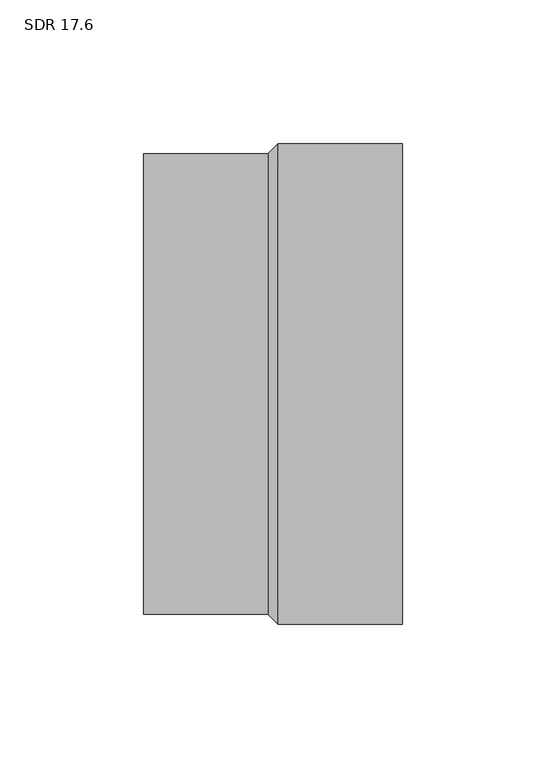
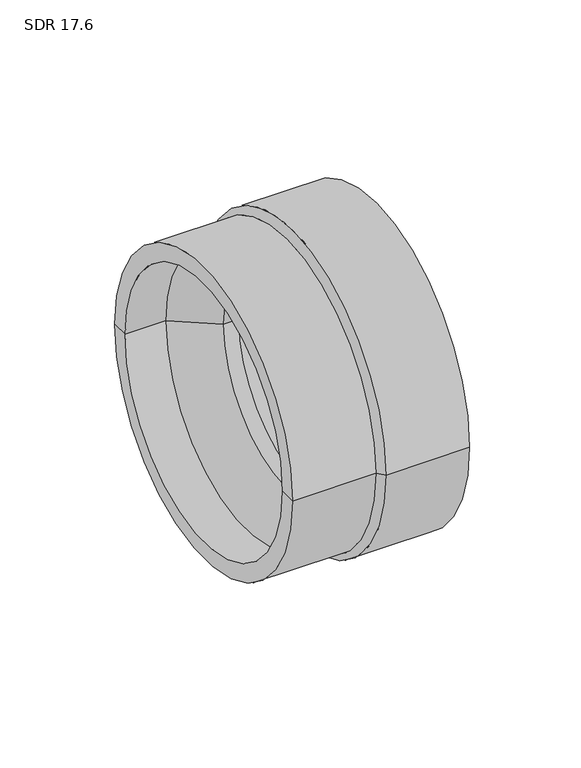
"""IFC4 building model written with IfcOpenShell, lengths in millimetres: pipe fitting geometry, Aquatherm - Reducing Coupling Butt Weld to Socket : SDR 17.6."""

from ifc_helpers import new_model, si_unit, frame, origin, place, context, project, spatial, polyline, circle_curve, source, transform, mapped, element, save
from ifc_brep_helpers import plane_surface, cylinder_surface, revolved_surface, advanced_brep


def sdr_17_6_117a52ce(model_context):
    return source(origin(), model_context, "Body", "AdvancedBrep", [
        advanced_brep(
        [(1.7145, -83.439, 0.0), (1.7145, 83.439, 0.0), (44.958, 83.439, 0.0), (44.958, -83.439, 0.0), (44.958, 62.484, 0.0), (44.958, -62.484, 0.0), (-23.749, -70.993, 0.0), (-23.749, 70.993, 0.0), (-44.958, 70.993, 0.0), (-44.958, -70.993, 0.0), (-44.958, 80.01, 0.0), (-44.958, -80.01, 0.0), (5.08, 62.484, 0.0), (5.08, -62.484, 0.0), (5.08, 55.499, 0.0), (5.08, -55.499, 0.0), (-2.54, 55.499, 0.0), (-2.54, -55.499, 0.0), (-1.7145, 80.01, 0.0), (-1.7145, -80.01, 0.0)],
        [
            (0, 1, circle_curve(frame((1.7145, 0.0, 0.0), z_axis=(1.0, 0.0, 0.0), x_axis=(0.0, 1.0, 0.0)), 83.439)),
            (1, 2),
            (2, 3, circle_curve(frame((44.958, 0.0, 0.0), z_axis=(-1.0, 0.0, 0.0), x_axis=(0.0, 1.0, 0.0)), 83.439)),
            (3, 0),
            (1, 0, circle_curve(frame((1.7145, 0.0, 0.0), z_axis=(1.0, 0.0, 0.0), x_axis=(0.0, 1.0, 0.0)), 83.439)),
            (3, 2, circle_curve(frame((44.958, 0.0, 0.0), z_axis=(-1.0, 0.0, 0.0), x_axis=(0.0, 1.0, 0.0)), 83.439)),
            (2, 4),
            (4, 5, circle_curve(frame((44.958, 0.0, 0.0), z_axis=(-1.0, 0.0, 0.0), x_axis=(0.0, 1.0, 0.0)), 62.484)),
            (5, 3),
            (5, 4, circle_curve(frame((44.958, 0.0, 0.0), z_axis=(-1.0, 0.0, 0.0), x_axis=(0.0, 1.0, 0.0)), 62.484)),
            (6, 7, circle_curve(frame((-23.749, 0.0, 0.0), z_axis=(1.0, 0.0, 0.0), x_axis=(0.0, 1.0, 0.0)), 70.993)),
            (7, 8),
            (8, 9, circle_curve(frame((-44.958, 0.0, 0.0), z_axis=(-1.0, 0.0, 0.0), x_axis=(0.0, 1.0, 0.0)), 70.993)),
            (9, 6),
            (7, 6, circle_curve(frame((-23.749, 0.0, 0.0), z_axis=(1.0, 0.0, 0.0), x_axis=(0.0, 1.0, 0.0)), 70.993)),
            (9, 8, circle_curve(frame((-44.958, 0.0, 0.0), z_axis=(-1.0, 0.0, 0.0), x_axis=(0.0, 1.0, 0.0)), 70.993)),
            (8, 10),
            (10, 11, circle_curve(frame((-44.958, 0.0, 0.0), z_axis=(-1.0, 0.0, 0.0), x_axis=(0.0, 1.0, 0.0)), 80.01)),
            (11, 9),
            (11, 10, circle_curve(frame((-44.958, 0.0, 0.0), z_axis=(-1.0, 0.0, 0.0), x_axis=(0.0, 1.0, 0.0)), 80.01)),
            (4, 12),
            (12, 13, circle_curve(frame((5.08, 0.0, 0.0), z_axis=(-1.0, 0.0, 0.0), x_axis=(0.0, 1.0, 0.0)), 62.484)),
            (13, 5),
            (13, 12, circle_curve(frame((5.08, 0.0, 0.0), z_axis=(-1.0, 0.0, 0.0), x_axis=(0.0, 1.0, 0.0)), 62.484)),
            (12, 14),
            (14, 15, circle_curve(frame((5.08, 0.0, 0.0), z_axis=(-1.0, 0.0, 0.0), x_axis=(0.0, 1.0, 0.0)), 55.499)),
            (15, 13),
            (15, 14, circle_curve(frame((5.08, 0.0, 0.0), z_axis=(-1.0, 0.0, 0.0), x_axis=(0.0, 1.0, 0.0)), 55.499)),
            (14, 16),
            (16, 17, circle_curve(frame((-2.54, 0.0, 0.0), z_axis=(-1.0, 0.0, 0.0), x_axis=(0.0, 1.0, 0.0)), 55.499)),
            (17, 15),
            (17, 16, circle_curve(frame((-2.54, 0.0, 0.0), z_axis=(-1.0, 0.0, 0.0), x_axis=(0.0, 1.0, 0.0)), 55.499)),
            (10, 18),
            (18, 19, circle_curve(frame((-1.7145, 0.0, 0.0), z_axis=(-1.0, 0.0, 0.0), x_axis=(0.0, 1.0, 0.0)), 80.01)),
            (19, 11),
            (19, 18, circle_curve(frame((-1.7145, 0.0, 0.0), z_axis=(-1.0, 0.0, 0.0), x_axis=(0.0, 1.0, 0.0)), 80.01)),
            (16, 7),
            (6, 17),
            (18, 1),
            (0, 19),
        ],
        [
            cylinder_surface(frame((-77.0252293, 0.0, 0.0), z_axis=(-1.0, 0.0, 0.0), x_axis=(0.0, 1.0, 0.0)), 83.439),
            plane_surface(frame((44.958, 0.0, 0.0), z_axis=(1.0, 0.0, 0.0), x_axis=(0.0, 1.0, 0.0))),
            revolved_surface(polyline([(-44.958, 70.993, 0.0), (-23.748999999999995, 70.993, 0.0)]), (-77.0252293, 0.0, 0.0), (-1.0, 0.0, 0.0)),
            plane_surface(frame((-44.958, 0.0, 0.0), z_axis=(-1.0, 0.0, 0.0), x_axis=(0.0, 1.0, 0.0))),
            revolved_surface(polyline([(5.079999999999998, 62.484, 0.0), (44.958, 62.484, 0.0)]), (-77.0252293, 0.0, 0.0), (-1.0, 0.0, 0.0)),
            plane_surface(frame((5.08, 0.0, 0.0), z_axis=(1.0, 0.0, 0.0), x_axis=(0.0, 1.0, 0.0))),
            revolved_surface(polyline([(-2.5400000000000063, 55.499, 0.0), (5.079999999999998, 55.499, 0.0)]), (-77.0252293, 0.0, 0.0), (-1.0, 0.0, 0.0)),
            cylinder_surface(frame((-77.0252293, 0.0, 0.0), z_axis=(-1.0, 0.0, 0.0), x_axis=(0.0, 1.0, 0.0)), 80.01),
            revolved_surface(polyline([(-23.749, 70.993, 0.0), (-2.54, 55.499, 0.0)]), (-77.0252293, 0.0, 0.0), (-1.0, 0.0, 0.0)),
            revolved_surface(polyline([(1.7145, 83.439, 0.0), (-1.7145, 80.01, 0.0)]), (-77.0252293, 0.0, 0.0), (-1.0, 0.0, 0.0)),
        ],
        [
            (0, [[1, 2, 3, 4]]),
            (0, [[5, -4, 6, -2]]),
            (1, [[-3, 7, 8, 9]]),
            (1, [[-6, -9, 10, -7]]),
            (2, [[11, 12, 13, 14]]),
            (2, [[15, -14, 16, -12]]),
            (3, [[-13, 17, 18, 19]]),
            (3, [[-16, -19, 20, -17]]),
            (4, [[-8, 21, 22, 23]]),
            (4, [[-10, -23, 24, -21]]),
            (5, [[-22, 25, 26, 27]]),
            (5, [[-24, -27, 28, -25]]),
            (6, [[-26, 29, 30, 31]]),
            (6, [[-28, -31, 32, -29]]),
            (7, [[-18, 33, 34, 35]]),
            (7, [[-20, -35, 36, -33]]),
            (8, [[-30, 37, -11, 38]]),
            (8, [[-32, -38, -15, -37]]),
            (9, [[-34, 39, -1, 40]]),
            (9, [[-36, -40, -5, -39]]),
        ],
    ),
    ])


if __name__ == "__main__":
    model = new_model("IFC4")
    model_context = context("Model", 3, world=origin())
    ifc_project = project(units=[si_unit("LENGTHUNIT", "METRE", prefix="MILLI")], contexts=[model_context])
    site = spatial("IfcSite", under=ifc_project)
    building = spatial("IfcBuilding", under=site)
    placement = place(None, origin())
    sdr_17_6_shape = sdr_17_6_117a52ce(model_context)
    element("IfcPipeFitting", 1, ObjectType="Aquatherm - Reducing Coupling Butt Weld to Socket : SDR 17.6", at=placement, inside=building, context=model_context, shape_type="MappedRepresentation", body=[
        mapped(sdr_17_6_shape, transform((0.0, 0.0, 0.0), x_axis=(1.0, 0.0, 0.0), y_axis=(0.0, 1.0, 0.0), z_axis=(0.0, 0.0, 1.0))),
    ])
    save(model, "model.ifc")
